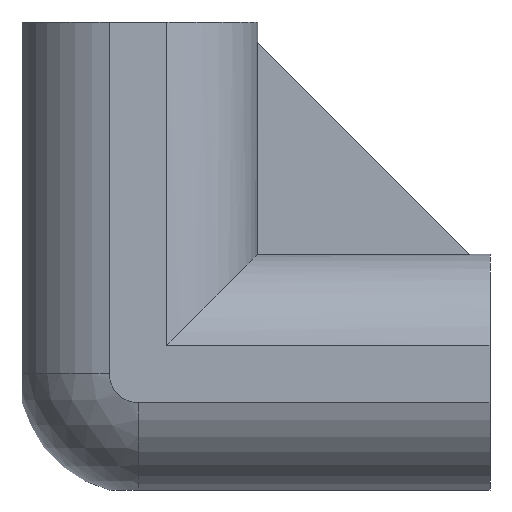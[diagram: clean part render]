
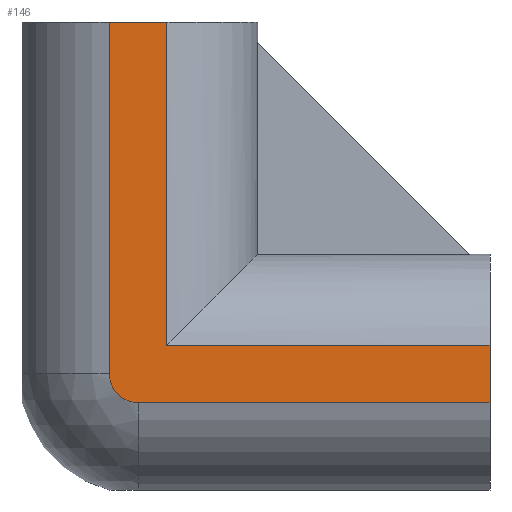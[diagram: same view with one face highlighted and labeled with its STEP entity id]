
A CAD part, front view. The second image highlights one B-rep face of the part: STEP entity #146.
In plain terms, the highlighted planar face has unit normal (0, -1, 0).
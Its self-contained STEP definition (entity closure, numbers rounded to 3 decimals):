
#1 = VERTEX_POINT ( 'NONE', #505 ) ;
#6 = CARTESIAN_POINT ( 'NONE',  ( 0., -16.5, 0. ) ) ;
#17 = PLANE ( 'NONE',  #604 ) ;
#22 = CARTESIAN_POINT ( 'NONE',  ( 0., -16.5, 0. ) ) ;
#29 = CARTESIAN_POINT ( 'NONE',  ( 4.093, -16.5, 50. ) ) ;
#30 = EDGE_LOOP ( 'NONE', ( #256, #708, #46, #407, #490, #514, #723 ) ) ;
#37 = LINE ( 'NONE', #609, #89 ) ;
#44 = CARTESIAN_POINT ( 'NONE',  ( -4.093, -16.5, 50. ) ) ;
#45 = VECTOR ( 'NONE', #698, 1000. ) ;
#46 = ORIENTED_EDGE ( 'NONE', *, *, #446, .T. ) ;
#63 = EDGE_CURVE ( 'NONE', #117, #704, #120, .T. ) ;
#64 = LINE ( 'NONE', #467, #45 ) ;
#71 = CARTESIAN_POINT ( 'NONE',  ( 0., -16.5, -4.093 ) ) ;
#89 = VECTOR ( 'NONE', #150, 1000. ) ;
#105 = LINE ( 'NONE', #44, #536 ) ;
#117 = VERTEX_POINT ( 'NONE', #71 ) ;
#119 = CARTESIAN_POINT ( 'NONE',  ( -4.1, -16.5, 50. ) ) ;
#120 = LINE ( 'NONE', #736, #403 ) ;
#142 = VECTOR ( 'NONE', #385, 1000. ) ;
#144 = CARTESIAN_POINT ( 'NONE',  ( 4.093, -16.5, 50. ) ) ;
#146 = ADVANCED_FACE ( 'NONE', ( #295 ), #17, .T. ) ;
#150 = DIRECTION ( 'NONE',  ( 0., 0., -1. ) ) ;
#154 = CARTESIAN_POINT ( 'NONE',  ( 4.093, -16.5, 4.093 ) ) ;
#188 = EDGE_CURVE ( 'NONE', #326, #117, #742, .T. ) ;
#237 = LINE ( 'NONE', #119, #731 ) ;
#256 = ORIENTED_EDGE ( 'NONE', *, *, #257, .T. ) ;
#257 = EDGE_CURVE ( 'NONE', #266, #346, #543, .T. ) ;
#266 = VERTEX_POINT ( 'NONE', #154 ) ;
#293 = EDGE_CURVE ( 'NONE', #316, #704, #37, .T. ) ;
#294 = DIRECTION ( 'NONE',  ( 1., 0., 0. ) ) ;
#295 = FACE_OUTER_BOUND ( 'NONE', #30, .T. ) ;
#302 = DIRECTION ( 'NONE',  ( 0., -1., 0. ) ) ;
#316 = VERTEX_POINT ( 'NONE', #722 ) ;
#324 = CARTESIAN_POINT ( 'NONE',  ( -4.093, -16.5, 0. ) ) ;
#326 = VERTEX_POINT ( 'NONE', #324 ) ;
#337 = DIRECTION ( 'NONE',  ( 0., 0., -1. ) ) ;
#346 = VERTEX_POINT ( 'NONE', #144 ) ;
#385 = DIRECTION ( 'NONE',  ( 0., 0., 1. ) ) ;
#403 = VECTOR ( 'NONE', #617, 1000. ) ;
#407 = ORIENTED_EDGE ( 'NONE', *, *, #188, .T. ) ;
#421 = DIRECTION ( 'NONE',  ( 0., -1., 0. ) ) ;
#444 = CARTESIAN_POINT ( 'NONE',  ( 50., -16.5, -4.093 ) ) ;
#446 = EDGE_CURVE ( 'NONE', #1, #326, #105, .T. ) ;
#467 = CARTESIAN_POINT ( 'NONE',  ( 50., -16.5, 4.093 ) ) ;
#490 = ORIENTED_EDGE ( 'NONE', *, *, #63, .T. ) ;
#505 = CARTESIAN_POINT ( 'NONE',  ( -4.093, -16.5, 50. ) ) ;
#514 = ORIENTED_EDGE ( 'NONE', *, *, #293, .F. ) ;
#528 = DIRECTION ( 'NONE',  ( 0., 0., 1. ) ) ;
#536 = VECTOR ( 'NONE', #337, 1000. ) ;
#543 = LINE ( 'NONE', #29, #142 ) ;
#563 = EDGE_CURVE ( 'NONE', #1, #346, #237, .T. ) ;
#574 = EDGE_CURVE ( 'NONE', #316, #266, #64, .T. ) ;
#604 = AXIS2_PLACEMENT_3D ( 'NONE', #6, #421, #528 ) ;
#609 = CARTESIAN_POINT ( 'NONE',  ( 50., -16.5, 4.1 ) ) ;
#616 = AXIS2_PLACEMENT_3D ( 'NONE', #22, #302, #645 ) ;
#617 = DIRECTION ( 'NONE',  ( 1., 0., 0. ) ) ;
#645 = DIRECTION ( 'NONE',  ( 0., 0., -1. ) ) ;
#698 = DIRECTION ( 'NONE',  ( -1., 0., 0. ) ) ;
#704 = VERTEX_POINT ( 'NONE', #444 ) ;
#708 = ORIENTED_EDGE ( 'NONE', *, *, #563, .F. ) ;
#722 = CARTESIAN_POINT ( 'NONE',  ( 50., -16.5, 4.093 ) ) ;
#723 = ORIENTED_EDGE ( 'NONE', *, *, #574, .T. ) ;
#731 = VECTOR ( 'NONE', #294, 1000. ) ;
#736 = CARTESIAN_POINT ( 'NONE',  ( 50., -16.5, -4.093 ) ) ;
#742 = CIRCLE ( 'NONE', #616, 4.093 ) ;
